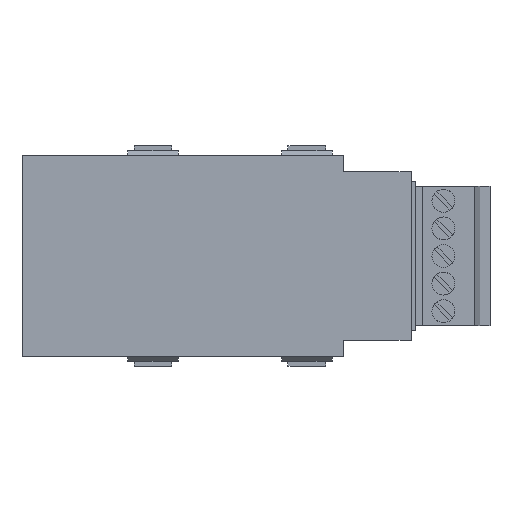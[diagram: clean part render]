
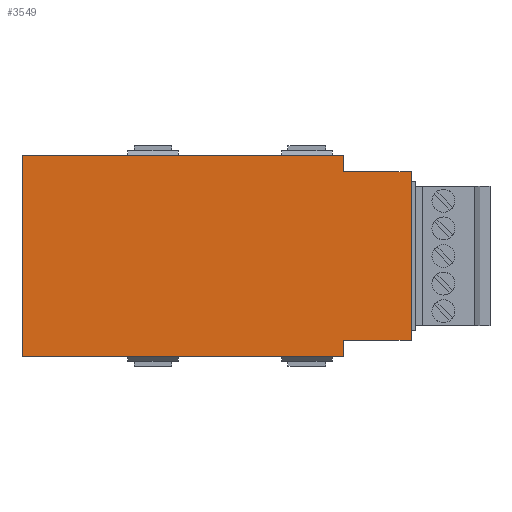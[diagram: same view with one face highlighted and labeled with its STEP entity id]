
A CAD part, left-side view. The second image highlights one B-rep face of the part: STEP entity #3549.
In plain terms, the highlighted planar face has unit normal (-1, 0, 0) as drawn and (0, 0, -1) by its records, which use the part's own axes.
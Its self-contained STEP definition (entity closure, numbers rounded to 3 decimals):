
#186 = LINE ( 'NONE', #8665, #363 ) ;
#327 = ORIENTED_EDGE ( 'NONE', *, *, #5237, .T. ) ;
#363 = VECTOR ( 'NONE', #7725, 1000. ) ;
#415 = DIRECTION ( 'NONE',  ( 0., 1., 0. ) ) ;
#745 = PLANE ( 'NONE',  #6885 ) ;
#763 = DIRECTION ( 'NONE',  ( -1., 0., 0. ) ) ;
#813 = VERTEX_POINT ( 'NONE', #2348 ) ;
#941 = CARTESIAN_POINT ( 'NONE',  ( 0., 10.7, 0. ) ) ;
#1144 = ORIENTED_EDGE ( 'NONE', *, *, #5268, .F. ) ;
#1393 = CARTESIAN_POINT ( 'NONE',  ( 0., 10.7, 0. ) ) ;
#1478 = VERTEX_POINT ( 'NONE', #8389 ) ;
#1697 = CARTESIAN_POINT ( 'NONE',  ( -8.55, 10.7, 0. ) ) ;
#1818 = ORIENTED_EDGE ( 'NONE', *, *, #8991, .F. ) ;
#1838 = CARTESIAN_POINT ( 'NONE',  ( -49.3, -12.75, 0. ) ) ;
#1948 = EDGE_CURVE ( 'NONE', #5117, #5152, #186, .T. ) ;
#1952 = DIRECTION ( 'NONE',  ( 0., 1., 0. ) ) ;
#2253 = FACE_OUTER_BOUND ( 'NONE', #7434, .T. ) ;
#2348 = CARTESIAN_POINT ( 'NONE',  ( -49.3, 12.75, 0. ) ) ;
#2502 = VERTEX_POINT ( 'NONE', #4678 ) ;
#2644 = LINE ( 'NONE', #1697, #7267 ) ;
#2749 = ORIENTED_EDGE ( 'NONE', *, *, #5055, .T. ) ;
#2917 = CARTESIAN_POINT ( 'NONE',  ( -8.55, 12.75, 0. ) ) ;
#2976 = ORIENTED_EDGE ( 'NONE', *, *, #6340, .F. ) ;
#3026 = CARTESIAN_POINT ( 'NONE',  ( -8.55, -12.75, 0. ) ) ;
#3263 = CARTESIAN_POINT ( 'NONE',  ( 0., -10.7, 0. ) ) ;
#3281 = LINE ( 'NONE', #1393, #8588 ) ;
#3440 = VECTOR ( 'NONE', #5797, 1000. ) ;
#3549 = ADVANCED_FACE ( 'NONE', ( #2253 ), #745, .T. ) ;
#3813 = ORIENTED_EDGE ( 'NONE', *, *, #6692, .F. ) ;
#3903 = LINE ( 'NONE', #2917, #7746 ) ;
#3940 = VERTEX_POINT ( 'NONE', #941 ) ;
#4374 = VECTOR ( 'NONE', #4711, 1000. ) ;
#4596 = DIRECTION ( 'NONE',  ( 0., -1., 0. ) ) ;
#4622 = DIRECTION ( 'NONE',  ( -1., 0., 0. ) ) ;
#4678 = CARTESIAN_POINT ( 'NONE',  ( -8.55, 12.75, 0. ) ) ;
#4683 = VECTOR ( 'NONE', #4596, 1000. ) ;
#4687 = VERTEX_POINT ( 'NONE', #3263 ) ;
#4711 = DIRECTION ( 'NONE',  ( -1., 0., 0. ) ) ;
#4918 = EDGE_CURVE ( 'NONE', #1478, #2502, #3903, .T. ) ;
#5055 = EDGE_CURVE ( 'NONE', #4687, #7067, #6652, .T. ) ;
#5117 = VERTEX_POINT ( 'NONE', #3026 ) ;
#5152 = VERTEX_POINT ( 'NONE', #1838 ) ;
#5237 = EDGE_CURVE ( 'NONE', #7067, #5117, #7738, .T. ) ;
#5268 = EDGE_CURVE ( 'NONE', #813, #5152, #6526, .T. ) ;
#5565 = CARTESIAN_POINT ( 'NONE',  ( -49.3, 12.75, 0. ) ) ;
#5587 = CARTESIAN_POINT ( 'NONE',  ( -47.3, 12.75, 0. ) ) ;
#5681 = CARTESIAN_POINT ( 'NONE',  ( -8.55, -10.7, 0. ) ) ;
#5797 = DIRECTION ( 'NONE',  ( 0., -1., 0. ) ) ;
#6340 = EDGE_CURVE ( 'NONE', #4687, #3940, #3281, .T. ) ;
#6526 = LINE ( 'NONE', #5565, #4683 ) ;
#6652 = LINE ( 'NONE', #5681, #4374 ) ;
#6692 = EDGE_CURVE ( 'NONE', #3940, #1478, #2644, .T. ) ;
#6706 = ORIENTED_EDGE ( 'NONE', *, *, #1948, .T. ) ;
#6762 = CARTESIAN_POINT ( 'NONE',  ( -8.55, -12.75, 0. ) ) ;
#6885 = AXIS2_PLACEMENT_3D ( 'NONE', #9196, #8241, #7299 ) ;
#7067 = VERTEX_POINT ( 'NONE', #7078 ) ;
#7078 = CARTESIAN_POINT ( 'NONE',  ( -8.55, -10.7, 0. ) ) ;
#7267 = VECTOR ( 'NONE', #763, 1000. ) ;
#7299 = DIRECTION ( 'NONE',  ( -1., 0., 0. ) ) ;
#7434 = EDGE_LOOP ( 'NONE', ( #3813, #2976, #2749, #327, #6706, #1144, #1818, #9273 ) ) ;
#7437 = VECTOR ( 'NONE', #4622, 1000. ) ;
#7725 = DIRECTION ( 'NONE',  ( -1., 0., 0. ) ) ;
#7738 = LINE ( 'NONE', #6762, #3440 ) ;
#7746 = VECTOR ( 'NONE', #1952, 1000. ) ;
#8241 = DIRECTION ( 'NONE',  ( 0., 0., -1. ) ) ;
#8389 = CARTESIAN_POINT ( 'NONE',  ( -8.55, 10.7, 0. ) ) ;
#8475 = LINE ( 'NONE', #5587, #7437 ) ;
#8588 = VECTOR ( 'NONE', #415, 1000. ) ;
#8665 = CARTESIAN_POINT ( 'NONE',  ( -47.3, -12.75, 0. ) ) ;
#8991 = EDGE_CURVE ( 'NONE', #2502, #813, #8475, .T. ) ;
#9196 = CARTESIAN_POINT ( 'NONE',  ( 0., 0., 0. ) ) ;
#9273 = ORIENTED_EDGE ( 'NONE', *, *, #4918, .F. ) ;
